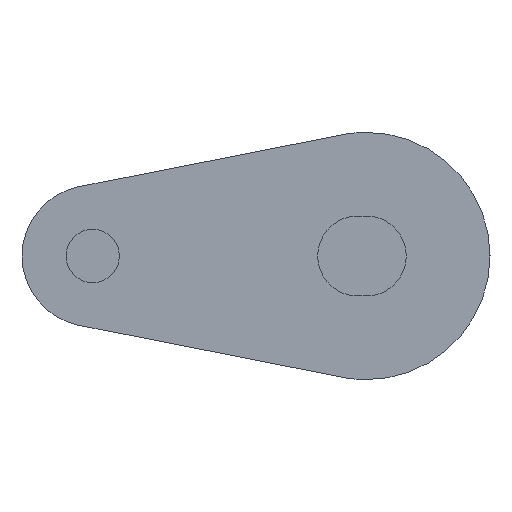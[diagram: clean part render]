
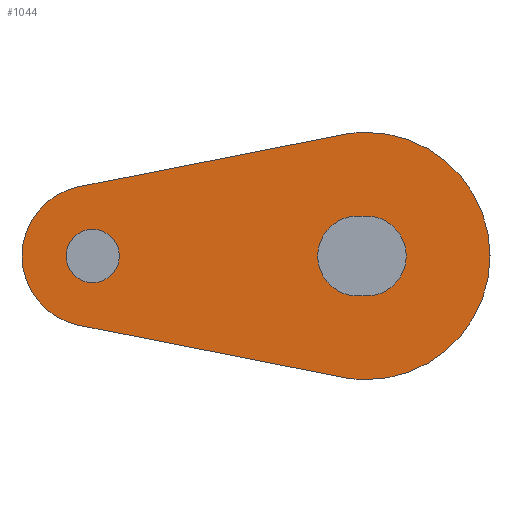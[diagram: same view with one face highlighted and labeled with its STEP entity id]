
A CAD part, left-side view. The second image highlights one B-rep face of the part: STEP entity #1044.
In plain terms, the highlighted planar face has unit normal (-1, 0, 0).
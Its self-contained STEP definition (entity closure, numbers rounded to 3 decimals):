
#24 = EDGE_CURVE ( 'NONE', #464, #355, #720, .T. ) ;
#32 = AXIS2_PLACEMENT_3D ( 'NONE', #307, #607, #601 ) ;
#34 = EDGE_CURVE ( 'NONE', #460, #415, #712, .T. ) ;
#45 = AXIS2_PLACEMENT_3D ( 'NONE', #381, #480, #410 ) ;
#46 = EDGE_CURVE ( 'NONE', #415, #395, #699, .T. ) ;
#52 = AXIS2_PLACEMENT_3D ( 'NONE', #453, #439, #438 ) ;
#58 = AXIS2_PLACEMENT_3D ( 'NONE', #531, #535, #308 ) ;
#59 = EDGE_CURVE ( 'NONE', #388, #322, #701, .T. ) ;
#73 = AXIS2_PLACEMENT_3D ( 'NONE', #386, #488, #516 ) ;
#76 = EDGE_CURVE ( 'NONE', #408, #414, #693, .T. ) ;
#77 = AXIS2_PLACEMENT_3D ( 'NONE', #619, #616, #615 ) ;
#83 = EDGE_CURVE ( 'NONE', #416, #384, #683, .T. ) ;
#89 = EDGE_CURVE ( 'NONE', #355, #464, #675, .T. ) ;
#91 = EDGE_CURVE ( 'NONE', #395, #357, #673, .T. ) ;
#102 = EDGE_CURVE ( 'NONE', #384, #388, #658, .T. ) ;
#110 = AXIS2_PLACEMENT_3D ( 'NONE', #584, #550, #508 ) ;
#135 = EDGE_CURVE ( 'NONE', #322, #416, #976, .T. ) ;
#144 = AXIS2_PLACEMENT_3D ( 'NONE', #549, #500, #583 ) ;
#146 = EDGE_CURVE ( 'NONE', #414, #460, #979, .T. ) ;
#149 = EDGE_CURVE ( 'NONE', #357, #408, #969, .T. ) ;
#154 = AXIS2_PLACEMENT_3D ( 'NONE', #232, #233, #234 ) ;
#232 = CARTESIAN_POINT ( 'NONE',  ( -401.5, 15.5, 0. ) ) ;
#233 = DIRECTION ( 'NONE',  ( -1., 0., 0. ) ) ;
#234 = DIRECTION ( 'NONE',  ( 0., 0., -1. ) ) ;
#247 = PLANE ( 'NONE',  #154 ) ;
#307 = CARTESIAN_POINT ( 'NONE',  ( -401.5, 0., 0. ) ) ;
#308 = DIRECTION ( 'NONE',  ( 0., 0., -1. ) ) ;
#322 = VERTEX_POINT ( 'NONE', #330 ) ;
#330 = CARTESIAN_POINT ( 'NONE',  ( -401.5, 0.5, -2.26 ) ) ;
#355 = VERTEX_POINT ( 'NONE', #375 ) ;
#357 = VERTEX_POINT ( 'NONE', #378 ) ;
#363 = CARTESIAN_POINT ( 'NONE',  ( -401.5, 0.5, -2.26 ) ) ;
#375 = CARTESIAN_POINT ( 'NONE',  ( -401.5, 15.5, 1.51 ) ) ;
#378 = CARTESIAN_POINT ( 'NONE',  ( -401.5, 0., -7. ) ) ;
#381 = CARTESIAN_POINT ( 'NONE',  ( -401.5, 0.5, 0. ) ) ;
#384 = VERTEX_POINT ( 'NONE', #426 ) ;
#386 = CARTESIAN_POINT ( 'NONE',  ( -401.5, 0., 0. ) ) ;
#388 = VERTEX_POINT ( 'NONE', #430 ) ;
#395 = VERTEX_POINT ( 'NONE', #435 ) ;
#408 = VERTEX_POINT ( 'NONE', #602 ) ;
#410 = DIRECTION ( 'NONE',  ( 0., 0., -1. ) ) ;
#414 = VERTEX_POINT ( 'NONE', #483 ) ;
#415 = VERTEX_POINT ( 'NONE', #557 ) ;
#416 = VERTEX_POINT ( 'NONE', #490 ) ;
#426 = CARTESIAN_POINT ( 'NONE',  ( -401.5, 0., 2.26 ) ) ;
#428 = CARTESIAN_POINT ( 'NONE',  ( -401.5, 16.274, 3.924 ) ) ;
#430 = CARTESIAN_POINT ( 'NONE',  ( -401.5, 0., -2.26 ) ) ;
#435 = CARTESIAN_POINT ( 'NONE',  ( -401.5, 0., 7. ) ) ;
#438 = DIRECTION ( 'NONE',  ( 0., 0., -1. ) ) ;
#439 = DIRECTION ( 'NONE',  ( 1., 0., 0. ) ) ;
#442 = DIRECTION ( 'NONE',  ( 0., -0.981, 0.194 ) ) ;
#453 = CARTESIAN_POINT ( 'NONE',  ( -401.5, 15.5, 0. ) ) ;
#460 = VERTEX_POINT ( 'NONE', #575 ) ;
#464 = VERTEX_POINT ( 'NONE', #502 ) ;
#480 = DIRECTION ( 'NONE',  ( 1., 0., 0. ) ) ;
#483 = CARTESIAN_POINT ( 'NONE',  ( -401.5, 16.274, -3.924 ) ) ;
#488 = DIRECTION ( 'NONE',  ( 1., 0., 0. ) ) ;
#490 = CARTESIAN_POINT ( 'NONE',  ( -401.5, 0.5, 2.26 ) ) ;
#500 = DIRECTION ( 'NONE',  ( 1., 0., 0. ) ) ;
#502 = CARTESIAN_POINT ( 'NONE',  ( -401.5, 15.5, -1.51 ) ) ;
#508 = DIRECTION ( 'NONE',  ( 0., 0., -1. ) ) ;
#516 = DIRECTION ( 'NONE',  ( 0., 0., -1. ) ) ;
#531 = CARTESIAN_POINT ( 'NONE',  ( -401.5, 0., 0. ) ) ;
#535 = DIRECTION ( 'NONE',  ( 1., 0., 0. ) ) ;
#549 = CARTESIAN_POINT ( 'NONE',  ( -401.5, 15.5, 0. ) ) ;
#550 = DIRECTION ( 'NONE',  ( 1., 0., 0. ) ) ;
#557 = CARTESIAN_POINT ( 'NONE',  ( -401.5, 1.355, 6.868 ) ) ;
#564 = DIRECTION ( 'NONE',  ( 0., 1., 0. ) ) ;
#575 = CARTESIAN_POINT ( 'NONE',  ( -401.5, 16.274, 3.924 ) ) ;
#583 = DIRECTION ( 'NONE',  ( 0., 0., -1. ) ) ;
#584 = CARTESIAN_POINT ( 'NONE',  ( -401.5, 0., 0. ) ) ;
#594 = DIRECTION ( 'NONE',  ( 0., 0.981, 0.194 ) ) ;
#596 = CARTESIAN_POINT ( 'NONE',  ( -401.5, 1.355, -6.868 ) ) ;
#601 = DIRECTION ( 'NONE',  ( 0., 0., -1. ) ) ;
#602 = CARTESIAN_POINT ( 'NONE',  ( -401.5, 1.355, -6.868 ) ) ;
#604 = CARTESIAN_POINT ( 'NONE',  ( -401.5, 0.5, 2.26 ) ) ;
#607 = DIRECTION ( 'NONE',  ( 1., 0., 0. ) ) ;
#613 = DIRECTION ( 'NONE',  ( 0., -1., 0. ) ) ;
#615 = DIRECTION ( 'NONE',  ( 0., 0., -1. ) ) ;
#616 = DIRECTION ( 'NONE',  ( 1., 0., 0. ) ) ;
#619 = CARTESIAN_POINT ( 'NONE',  ( -401.5, 15.5, 0. ) ) ;
#658 = CIRCLE ( 'NONE', #58, 2.26 ) ;
#673 = CIRCLE ( 'NONE', #110, 7. ) ;
#675 = CIRCLE ( 'NONE', #77, 1.51 ) ;
#682 = VECTOR ( 'NONE', #613, 1000. ) ;
#683 = LINE ( 'NONE', #604, #682 ) ;
#692 = VECTOR ( 'NONE', #594, 1000. ) ;
#693 = LINE ( 'NONE', #596, #692 ) ;
#698 = VECTOR ( 'NONE', #564, 1000. ) ;
#699 = CIRCLE ( 'NONE', #32, 7. ) ;
#701 = LINE ( 'NONE', #363, #698 ) ;
#710 = VECTOR ( 'NONE', #442, 1000. ) ;
#712 = LINE ( 'NONE', #428, #710 ) ;
#720 = CIRCLE ( 'NONE', #52, 1.51 ) ;
#736 = ORIENTED_EDGE ( 'NONE', *, *, #135, .T. ) ;
#738 = ORIENTED_EDGE ( 'NONE', *, *, #149, .F. ) ;
#739 = ORIENTED_EDGE ( 'NONE', *, *, #76, .F. ) ;
#741 = ORIENTED_EDGE ( 'NONE', *, *, #34, .F. ) ;
#742 = ORIENTED_EDGE ( 'NONE', *, *, #59, .T. ) ;
#743 = ORIENTED_EDGE ( 'NONE', *, *, #146, .F. ) ;
#745 = ORIENTED_EDGE ( 'NONE', *, *, #91, .F. ) ;
#749 = ORIENTED_EDGE ( 'NONE', *, *, #102, .T. ) ;
#750 = ORIENTED_EDGE ( 'NONE', *, *, #89, .T. ) ;
#771 = ORIENTED_EDGE ( 'NONE', *, *, #83, .T. ) ;
#779 = ORIENTED_EDGE ( 'NONE', *, *, #24, .T. ) ;
#780 = ORIENTED_EDGE ( 'NONE', *, *, #46, .F. ) ;
#849 = EDGE_LOOP ( 'NONE', ( #736, #771, #749, #742 ) ) ;
#850 = EDGE_LOOP ( 'NONE', ( #779, #750 ) ) ;
#880 = EDGE_LOOP ( 'NONE', ( #743, #739, #738, #745, #780, #741 ) ) ;
#969 = CIRCLE ( 'NONE', #73, 7. ) ;
#976 = CIRCLE ( 'NONE', #45, 2.26 ) ;
#979 = CIRCLE ( 'NONE', #144, 4. ) ;
#981 = FACE_BOUND ( 'NONE', #849, .T. ) ;
#985 = FACE_BOUND ( 'NONE', #850, .T. ) ;
#986 = FACE_OUTER_BOUND ( 'NONE', #880, .T. ) ;
#1044 = ADVANCED_FACE ( 'NONE', ( #981, #985, #986 ), #247, .T. ) ;
